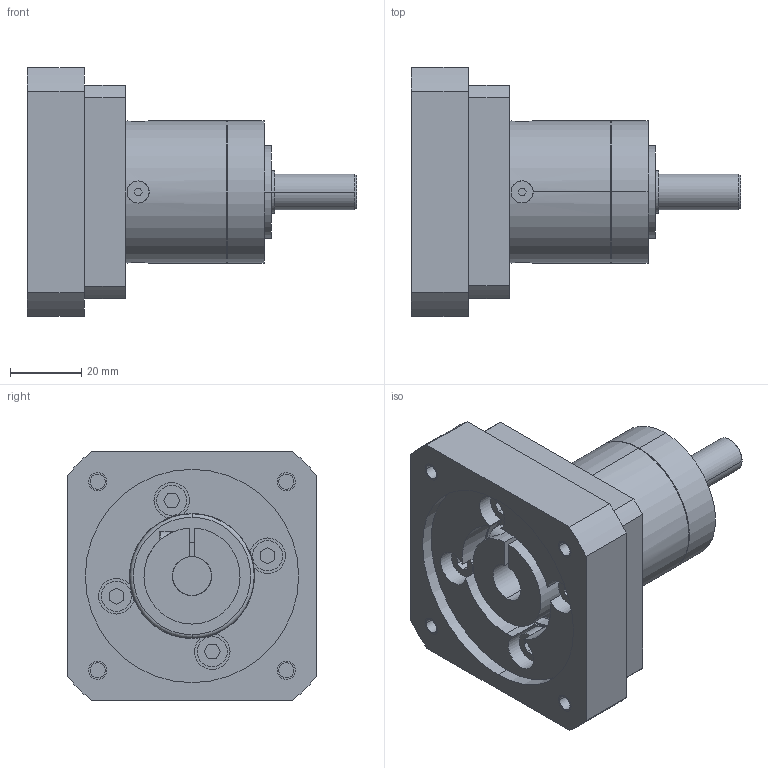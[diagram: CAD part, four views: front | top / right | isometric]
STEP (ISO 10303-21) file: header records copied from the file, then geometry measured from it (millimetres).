
FILE_DESCRIPTION((''),'2;1');
FILE_NAME('MB_PLE_MASTER','2019-10-22T',('agw'),(''),'CREO PARAMETRIC BY PTC INC, 2015290','CREO PARAMETRIC BY PTC INC, 2015290','');
FILE_SCHEMA(('AUTOMOTIVE_DESIGN { 1 0 10303 214 1 1 1 1 }'));
Length unit declared in the file: millimetre
Products named in the file (1): MB_PLE_MASTER
Bounding box: 92.5 x 70 x 70 mm (x, y, z)
Volume: 149666.6 mm3; surface area: 33152.5 mm2
Topology: 1 solids, 9 shells, 241 faces, 571 edges, 376 vertices
Faces by surface type: plane 131, cylinder 104, torus 4, cone 2
Entity records: 7942 total; most frequent: CARTESIAN_POINT 1363, DIRECTION 1261, ORIENTED_EDGE 1110, EDGE_CURVE 571, AXIS2_PLACEMENT_3D 465, VERTEX_POINT 376, VECTOR 331, LINE 331
